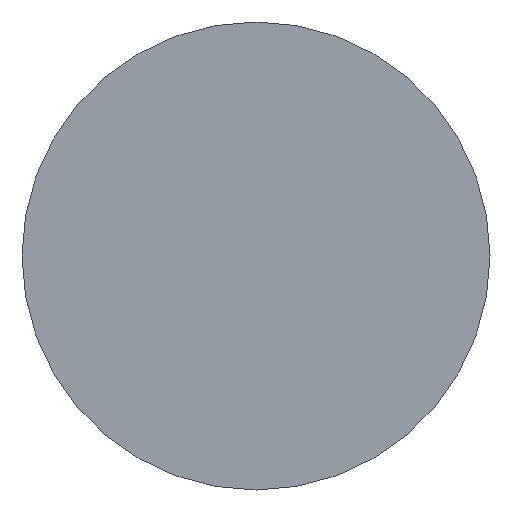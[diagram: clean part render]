
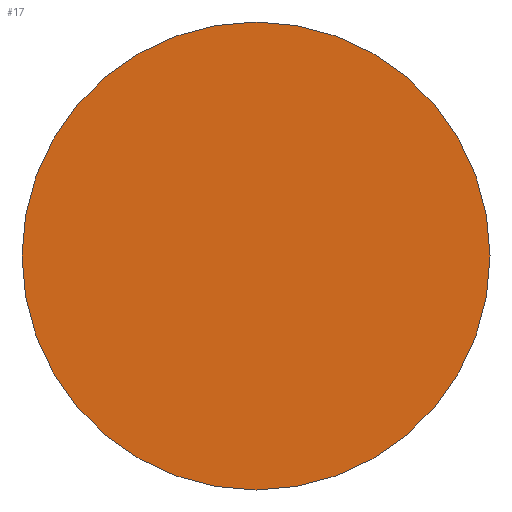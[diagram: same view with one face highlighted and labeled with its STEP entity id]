
A CAD part, left-side view. The second image highlights one B-rep face of the part: STEP entity #17.
In plain terms, the highlighted planar face has unit normal (-1, 0, 0).
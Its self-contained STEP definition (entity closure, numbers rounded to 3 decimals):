
#17 = ADVANCED_FACE('',(#18),#31,.F.);
#18 = FACE_BOUND('',#19,.T.);
#19 = EDGE_LOOP('',(#20));
#20 = ORIENTED_EDGE('',*,*,#21,.F.);
#21 = EDGE_CURVE('',#22,#22,#24,.T.);
#22 = VERTEX_POINT('',#23);
#23 = CARTESIAN_POINT('',(20.3,20.,0.));
#24 = SURFACE_CURVE('',#25,(#30,#42),.PCURVE_S1.);
#25 = CIRCLE('',#26,20.);
#26 = AXIS2_PLACEMENT_3D('',#27,#28,#29);
#27 = CARTESIAN_POINT('',(20.3,0.,0.));
#28 = DIRECTION('',(1.,0.,0.));
#29 = DIRECTION('',(-0.,1.,0.));
#30 = PCURVE('',#31,#36);
#31 = PLANE('',#32);
#32 = AXIS2_PLACEMENT_3D('',#33,#34,#35);
#33 = CARTESIAN_POINT('',(20.3,0.,0.));
#34 = DIRECTION('',(1.,0.,0.));
#35 = DIRECTION('',(-0.,1.,0.));
#36 = DEFINITIONAL_REPRESENTATION('',(#37),#41);
#37 = CIRCLE('',#38,20.);
#38 = AXIS2_PLACEMENT_2D('',#39,#40);
#39 = CARTESIAN_POINT('',(0.,0.));
#40 = DIRECTION('',(1.,-0.));
#41 = ( GEOMETRIC_REPRESENTATION_CONTEXT(2) 
PARAMETRIC_REPRESENTATION_CONTEXT() REPRESENTATION_CONTEXT('2D SPACE',''
  ) );
#42 = PCURVE('',#43,#48);
#43 = CYLINDRICAL_SURFACE('',#44,20.);
#44 = AXIS2_PLACEMENT_3D('',#45,#46,#47);
#45 = CARTESIAN_POINT('',(20.3,0.,0.));
#46 = DIRECTION('',(1.,0.,0.));
#47 = DIRECTION('',(-0.,1.,0.));
#48 = DEFINITIONAL_REPRESENTATION('',(#49),#53);
#49 = LINE('',#50,#51);
#50 = CARTESIAN_POINT('',(0.,0.));
#51 = VECTOR('',#52,1.);
#52 = DIRECTION('',(1.,0.));
#53 = ( GEOMETRIC_REPRESENTATION_CONTEXT(2) 
PARAMETRIC_REPRESENTATION_CONTEXT() REPRESENTATION_CONTEXT('2D SPACE',''
  ) );
